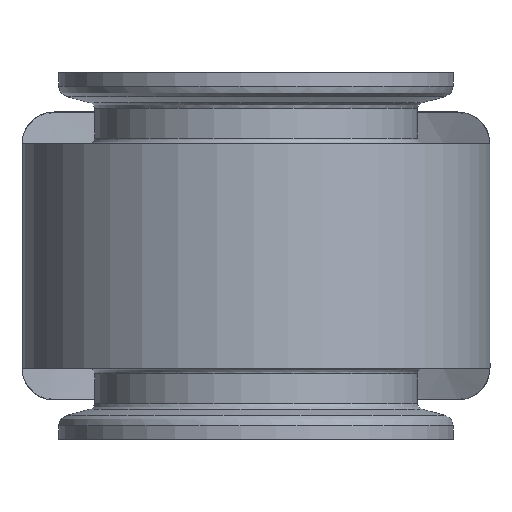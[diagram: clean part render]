
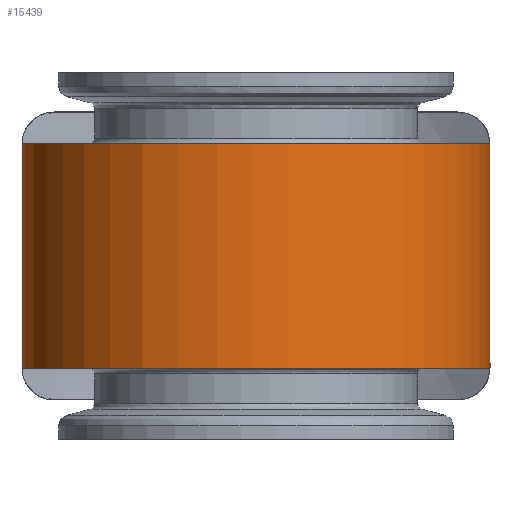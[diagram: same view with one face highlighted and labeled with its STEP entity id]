
A CAD part, front view. The second image highlights one B-rep face of the part: STEP entity #15439.
In plain terms, the highlighted free-form (B-spline) face has degree [2, 1] with [5, 2] control points.
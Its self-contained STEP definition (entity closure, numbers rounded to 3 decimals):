
#14903=CARTESIAN_POINT('V41',(15.575,-0.202,
   32.499));
#14904=VERTEX_POINT('V41',#14903);
#14910=CARTESIAN_POINT('V1',(15.5,0.,
   32.5));
#14911=VERTEX_POINT('V1',#14910);
#14912=CARTESIAN_POINT('E62',(15.575,-0.202,
   32.499));
#14913=CARTESIAN_POINT('E62',(15.55,-0.134,
   32.5));
#14914=CARTESIAN_POINT('E62',(15.525,-0.067,
   32.5));
#14915=CARTESIAN_POINT('E62',(15.5,0.,
   32.5));
#14916=B_SPLINE_CURVE_WITH_KNOTS('E62',3,(#14912,#14913,#14914,
   #14915),.UNSPECIFIED.,.F.,.U.,(4,4),(0.0,0.),
   .UNSPECIFIED.);
#14917=EDGE_CURVE('E62',#14904,#14911,#14916,.T.);
#14933=CARTESIAN_POINT('V4',(-15.5,0.,
   32.5));
#14934=VERTEX_POINT('V4',#14933);
#14935=CARTESIAN_POINT('E4',(15.5,0.,
   32.5));
#14936=CARTESIAN_POINT('E4',(-15.5,0.,
   32.5));
#14937=QUASI_UNIFORM_CURVE('E4',1,(#14935,#14936),.POLYLINE_FORM.,
   .F.,.U.);
#14938=EDGE_CURVE('E4',#14911,#14934,#14937,.T.);
#15061=CARTESIAN_POINT('V42',(-15.575,-0.202,
   32.499));
#15062=VERTEX_POINT('V42',#15061);
#15063=CARTESIAN_POINT('E63',(-15.5,0.,
   32.5));
#15064=CARTESIAN_POINT('E63',(-15.525,-0.067,
   32.5));
#15065=CARTESIAN_POINT('E63',(-15.55,-0.134,
   32.5));
#15066=CARTESIAN_POINT('E63',(-15.575,-0.202,
   32.499));
#15067=B_SPLINE_CURVE_WITH_KNOTS('E63',3,(#15063,#15064,#15065,
   #15066),.UNSPECIFIED.,.F.,.U.,(4,4),(0.0,0.),
   .UNSPECIFIED.);
#15068=EDGE_CURVE('E63',#14934,#15062,#15067,.T.);
#15089=CARTESIAN_POINT('V43',(-15.575,-0.202,
   -32.499));
#15090=VERTEX_POINT('V43',#15089);
#15098=CARTESIAN_POINT('E64',(-15.575,-0.202,
   -32.499));
#15099=CARTESIAN_POINT('E64',(-15.575,-8.802,
   -32.446));
#15100=CARTESIAN_POINT('E64',(-15.575,
   -16.25,-28.146));
#15101=CARTESIAN_POINT('E64',(-15.575,
   -65.,0.));
#15102=CARTESIAN_POINT('E64',(-15.575,
   -16.25,28.146));
#15103=CARTESIAN_POINT('E64',(-15.575,-8.802,
   32.446));
#15104=CARTESIAN_POINT('E64',(-15.575,-0.202,
   32.499));
#15112=(BOUNDED_CURVE()B_SPLINE_CURVE(2,(#15098,#15099,#15100,
   #15101,#15102,#15103,#15104),.CIRCULAR_ARC.,.F.,.U.)
   B_SPLINE_CURVE_WITH_KNOTS((3,2,2,3),(0.245,
   0.333,0.667,0.755),
   .UNSPECIFIED.)CURVE()GEOMETRIC_REPRESENTATION_ITEM()
   RATIONAL_B_SPLINE_CURVE((0.805,0.867,
   1.0,0.5,1.0,0.867,0.805))
   REPRESENTATION_ITEM('E64'));
#15113=EDGE_CURVE('E64',#15090,#15062,#15112,.T.);
#15135=CARTESIAN_POINT('V44',(-15.5,0.,
   -32.5));
#15136=VERTEX_POINT('V44',#15135);
#15137=CARTESIAN_POINT('E65',(-15.575,-0.202,
   -32.499));
#15138=CARTESIAN_POINT('E65',(-15.55,-0.134,
   -32.5));
#15139=CARTESIAN_POINT('E65',(-15.525,-0.067,
   -32.5));
#15140=CARTESIAN_POINT('E65',(-15.5,0.,
   -32.5));
#15141=B_SPLINE_CURVE_WITH_KNOTS('E65',3,(#15137,#15138,#15139,
   #15140),.UNSPECIFIED.,.F.,.U.,(4,4),(0.0,0.),
   .UNSPECIFIED.);
#15142=EDGE_CURVE('E65',#15090,#15136,#15141,.T.);
#15367=CARTESIAN_POINT('V40',(15.575,-0.202,
   -32.499));
#15368=VERTEX_POINT('V40',#15367);
#15374=CARTESIAN_POINT('E61',(15.575,-0.202,
   -32.499));
#15375=CARTESIAN_POINT('E61',(15.575,-8.802,
   -32.446));
#15376=CARTESIAN_POINT('E61',(15.575,-16.25,
   -28.146));
#15377=CARTESIAN_POINT('E61',(15.575,-65.,
   0.));
#15378=CARTESIAN_POINT('E61',(15.575,-16.25,
   28.146));
#15379=CARTESIAN_POINT('E61',(15.575,-8.802,
   32.446));
#15380=CARTESIAN_POINT('E61',(15.575,-0.202,
   32.499));
#15388=(BOUNDED_CURVE()B_SPLINE_CURVE(2,(#15374,#15375,#15376,
   #15377,#15378,#15379,#15380),.CIRCULAR_ARC.,.F.,.U.)
   B_SPLINE_CURVE_WITH_KNOTS((3,2,2,3),(0.245,
   0.333,0.667,0.755),
   .UNSPECIFIED.)CURVE()GEOMETRIC_REPRESENTATION_ITEM()
   RATIONAL_B_SPLINE_CURVE((0.805,0.867,
   1.0,0.5,1.0,0.867,0.805))
   REPRESENTATION_ITEM('E61'));
#15389=EDGE_CURVE('E61',#15368,#14904,#15388,.T.);
#15399=CARTESIAN_POINT('F23',(15.675,0.995,
   -32.485));
#15400=CARTESIAN_POINT('F23',(15.675,-32.5,
   -33.511));
#15401=CARTESIAN_POINT('F23',(15.675,-32.5,
   0.));
#15402=CARTESIAN_POINT('F23',(15.675,-32.5,
   33.511));
#15403=CARTESIAN_POINT('F23',(15.675,0.995,
   32.485));
#15404=CARTESIAN_POINT('F23',(-15.675,0.995,
   -32.485));
#15405=CARTESIAN_POINT('F23',(-15.675,
   -32.5,-33.511));
#15406=CARTESIAN_POINT('F23',(-15.675,
   -32.5,0.));
#15407=CARTESIAN_POINT('F23',(-15.675,
   -32.5,33.511));
#15408=CARTESIAN_POINT('F23',(-15.675,0.995,
   32.485));
#15416=(BOUNDED_SURFACE()B_SPLINE_SURFACE(2,1,((#15399,#15404),(
   #15400,#15405),(#15401,#15406),(#15402,#15407),(#15403,
   #15408)),.CYLINDRICAL_SURF.,.F.,.F.,.U.)
   B_SPLINE_SURFACE_WITH_KNOTS((3,2,3),(2,2),(0.598,
   3.064,5.529),(0.0,1.0),.UNSPECIFIED.)
   GEOMETRIC_REPRESENTATION_ITEM()RATIONAL_B_SPLINE_SURFACE(((
   0.862,0.862),(0.646,
   0.646),(1.0,1.0),(0.646,
   0.646),(0.862,0.862)))
   REPRESENTATION_ITEM('F23')SURFACE());
#15417=CARTESIAN_POINT('V39',(15.5,0.,
   -32.5));
#15418=VERTEX_POINT('V39',#15417);
#15419=CARTESIAN_POINT('E60',(15.5,0.,
   -32.5));
#15420=CARTESIAN_POINT('E60',(15.525,-0.067,
   -32.5));
#15421=CARTESIAN_POINT('E60',(15.55,-0.134,
   -32.5));
#15422=CARTESIAN_POINT('E60',(15.575,-0.202,
   -32.499));
#15423=B_SPLINE_CURVE_WITH_KNOTS('E60',3,(#15419,#15420,#15421,
   #15422),.UNSPECIFIED.,.F.,.U.,(4,4),(0.0,0.),
   .UNSPECIFIED.);
#15424=EDGE_CURVE('E60',#15418,#15368,#15423,.T.);
#15425=ORIENTED_EDGE('E60',*,*,#15424,.F.);
#15426=CARTESIAN_POINT('E66',(-15.5,0.,
   -32.5));
#15427=CARTESIAN_POINT('E66',(15.5,0.,
   -32.5));
#15428=QUASI_UNIFORM_CURVE('E66',1,(#15426,#15427),.POLYLINE_FORM.,
   .F.,.U.);
#15429=EDGE_CURVE('E66',#15136,#15418,#15428,.T.);
#15430=ORIENTED_EDGE('E66',*,*,#15429,.F.);
#15431=ORIENTED_EDGE('E65',*,*,#15142,.F.);
#15432=ORIENTED_EDGE('F60',*,*,#15113,.T.);
#15433=ORIENTED_EDGE('E63',*,*,#15068,.F.);
#15434=ORIENTED_EDGE('E4',*,*,#14938,.F.);
#15435=ORIENTED_EDGE('E62',*,*,#14917,.F.);
#15436=ORIENTED_EDGE('E61',*,*,#15389,.F.);
#15437=EDGE_LOOP('F23',(#15425,#15430,#15431,#15432,#15433,#15434,
   #15435,#15436));
#15438=FACE_OUTER_BOUND('F23',#15437,.F.);
#15439=ADVANCED_FACE('F23',(#15438),#15416,.T.);
